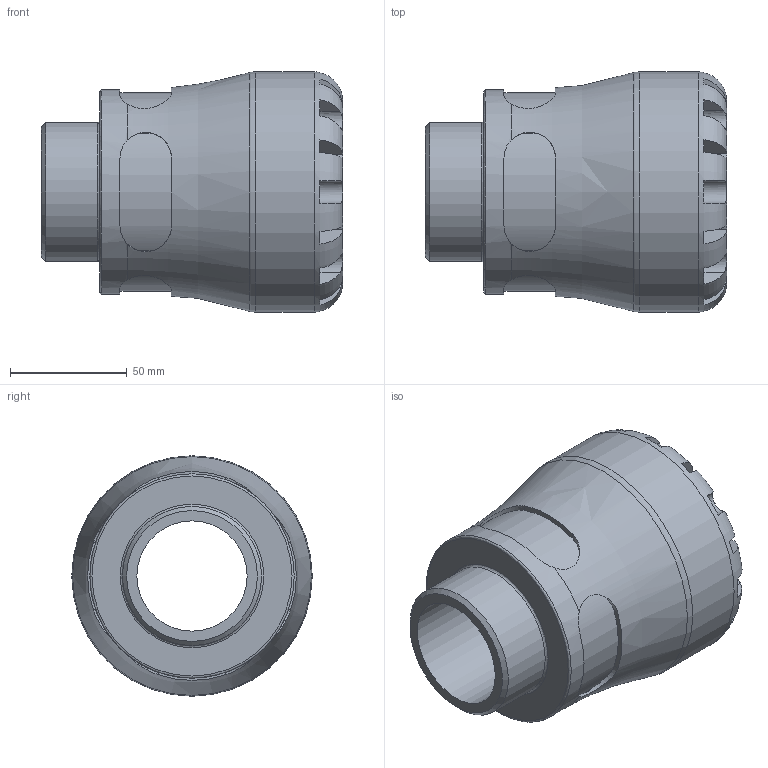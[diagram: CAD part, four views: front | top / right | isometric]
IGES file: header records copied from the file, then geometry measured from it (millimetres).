
Global section: file name: 100200063020_190200063020.ipt; native system: Autodesk Inventor 2015; preprocessor: unknown; author: KIM; date: 20170727.143957; units: millimetre
Bounding box: 129 x 103 x 103 mm (x, y, z)
Volume: 447815.2 mm3; surface area: 72233.5 mm2
Topology: 1 solids, 1 shells, 108 faces, 292 edges, 188 vertices
Faces by surface type: plane 68, revolution 24, cylinder 15, cone 1
Full cylindrical faces by diameter (mm): 59.614 x1, 87.55 x1, 103 x1
